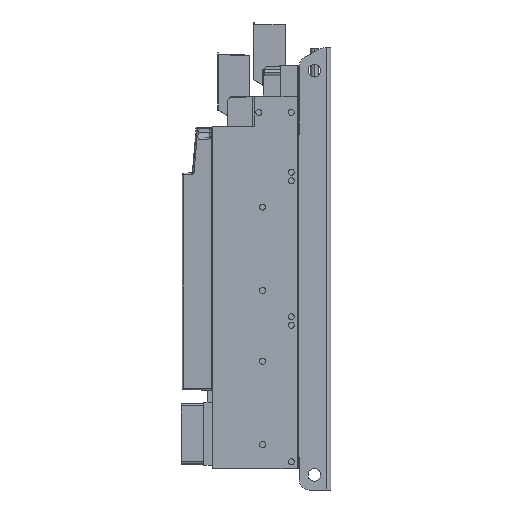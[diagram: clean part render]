
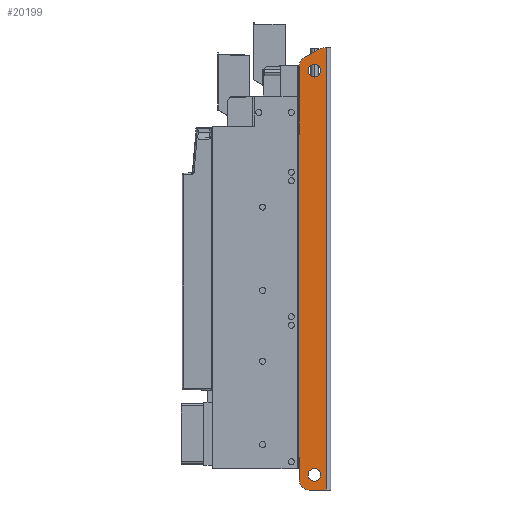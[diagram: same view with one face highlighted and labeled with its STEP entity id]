
A CAD part, left-side view. The second image highlights one B-rep face of the part: STEP entity #20199.
In plain terms, the highlighted planar face has unit normal (-1, 0, 0).
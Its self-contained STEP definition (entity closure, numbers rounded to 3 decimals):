
#42 = DIRECTION ( 'NONE',  ( 0., 0., 1. ) ) ;
#100 = ORIENTED_EDGE ( 'NONE', *, *, #38527, .T. ) ;
#255 = CARTESIAN_POINT ( 'NONE',  ( -163., 25., -63.9 ) ) ;
#1080 = VERTEX_POINT ( 'NONE', #80074 ) ;
#1443 = EDGE_CURVE ( 'NONE', #72381, #10320, #3994, .T. ) ;
#1681 = LINE ( 'NONE', #20015, #86638 ) ;
#3598 = CARTESIAN_POINT ( 'NONE',  ( -163., -29., 811.1 ) ) ;
#3994 = LINE ( 'NONE', #86209, #76068 ) ;
#4217 = DIRECTION ( 'NONE',  ( -1., 0., 0. ) ) ;
#4731 = LINE ( 'NONE', #71812, #18040 ) ;
#5295 = EDGE_CURVE ( 'NONE', #87381, #51055, #1681, .T. ) ;
#5385 = ORIENTED_EDGE ( 'NONE', *, *, #86685, .T. ) ;
#5545 = PLANE ( 'NONE',  #13877 ) ;
#5797 = EDGE_CURVE ( 'NONE', #15594, #27573, #54783, .T. ) ;
#5955 = DIRECTION ( 'NONE',  ( -1., 0., 0. ) ) ;
#6732 = AXIS2_PLACEMENT_3D ( 'NONE', #15384, #57846, #57413 ) ;
#7068 = ORIENTED_EDGE ( 'NONE', *, *, #1443, .F. ) ;
#7504 = DIRECTION ( 'NONE',  ( 0., 0.866, -0.5 ) ) ;
#8108 = VECTOR ( 'NONE', #46095, 1000. ) ;
#8218 = ORIENTED_EDGE ( 'NONE', *, *, #85847, .F. ) ;
#8727 = FACE_OUTER_BOUND ( 'NONE', #45950, .T. ) ;
#9728 = EDGE_CURVE ( 'NONE', #81917, #87381, #62814, .T. ) ;
#10320 = VERTEX_POINT ( 'NONE', #84483 ) ;
#10549 = CIRCLE ( 'NONE', #67694, 12.5 ) ;
#13143 = ORIENTED_EDGE ( 'NONE', *, *, #17476, .T. ) ;
#13877 = AXIS2_PLACEMENT_3D ( 'NONE', #85123, #4217, #45771 ) ;
#14056 = EDGE_CURVE ( 'NONE', #45297, #84623, #16090, .T. ) ;
#14068 = DIRECTION ( 'NONE',  ( 0., -1., 0. ) ) ;
#14296 = LINE ( 'NONE', #61715, #25347 ) ;
#15384 = CARTESIAN_POINT ( 'NONE',  ( -163., 5., -43.9 ) ) ;
#15594 = VERTEX_POINT ( 'NONE', #67960 ) ;
#16090 = CIRCLE ( 'NONE', #76030, 12.5 ) ;
#16102 = DIRECTION ( 'NONE',  ( 0., 0., 1. ) ) ;
#17301 = ORIENTED_EDGE ( 'NONE', *, *, #41413, .F. ) ;
#17476 = EDGE_CURVE ( 'NONE', #1080, #79587, #4731, .T. ) ;
#17632 = DIRECTION ( 'NONE',  ( 0., 0., 1. ) ) ;
#17723 = DIRECTION ( 'NONE',  ( -1., 0., 0. ) ) ;
#18040 = VECTOR ( 'NONE', #24807, 1000. ) ;
#18173 = VERTEX_POINT ( 'NONE', #71232 ) ;
#19189 = VECTOR ( 'NONE', #42, 1000. ) ;
#19206 = EDGE_CURVE ( 'NONE', #79587, #32599, #38928, .T. ) ;
#20015 = CARTESIAN_POINT ( 'NONE',  ( -163., -18., 811.1 ) ) ;
#20199 = ADVANCED_FACE ( 'NONE', ( #8727, #35964, #63249 ), #5545, .T. ) ;
#21244 = CARTESIAN_POINT ( 'NONE',  ( -163., -13.359, 808.421 ) ) ;
#21704 = ORIENTED_EDGE ( 'NONE', *, *, #19206, .T. ) ;
#23678 = CARTESIAN_POINT ( 'NONE',  ( -163., -5., 766.1 ) ) ;
#23701 = DIRECTION ( 'NONE',  ( 0., 0., 1. ) ) ;
#24109 = DIRECTION ( 'NONE',  ( 0., 0., 1. ) ) ;
#24115 = DIRECTION ( 'NONE',  ( -1., 0., 0. ) ) ;
#24333 = CARTESIAN_POINT ( 'NONE',  ( -163., -5., 766.1 ) ) ;
#24807 = DIRECTION ( 'NONE',  ( 0., -1., 0. ) ) ;
#25347 = VECTOR ( 'NONE', #68017, 1000. ) ;
#26467 = DIRECTION ( 'NONE',  ( 0., 0., 1. ) ) ;
#27573 = VERTEX_POINT ( 'NONE', #61537 ) ;
#27884 = CARTESIAN_POINT ( 'NONE',  ( -163., 15., 792.047 ) ) ;
#29619 = CARTESIAN_POINT ( 'NONE',  ( -163., 25., 585. ) ) ;
#30287 = AXIS2_PLACEMENT_3D ( 'NONE', #23678, #24115, #16102 ) ;
#32599 = VERTEX_POINT ( 'NONE', #50874 ) ;
#35964 = FACE_BOUND ( 'NONE', #40981, .T. ) ;
#37754 = DIRECTION ( 'NONE',  ( -1., 0., 0. ) ) ;
#38063 = CIRCLE ( 'NONE', #88050, 12.5 ) ;
#38527 = EDGE_CURVE ( 'NONE', #43723, #10320, #63614, .T. ) ;
#38928 = LINE ( 'NONE', #87206, #8108 ) ;
#39274 = EDGE_CURVE ( 'NONE', #18173, #47039, #10549, .T. ) ;
#39413 = ORIENTED_EDGE ( 'NONE', *, *, #5797, .T. ) ;
#40949 = CARTESIAN_POINT ( 'NONE',  ( -163., 27., 536. ) ) ;
#40981 = EDGE_LOOP ( 'NONE', ( #56482, #8218 ) ) ;
#41413 = EDGE_CURVE ( 'NONE', #1080, #72381, #88344, .T. ) ;
#42293 = CIRCLE ( 'NONE', #73787, 20. ) ;
#42431 = VERTEX_POINT ( 'NONE', #3598 ) ;
#43723 = VERTEX_POINT ( 'NONE', #59454 ) ;
#45139 = CARTESIAN_POINT ( 'NONE',  ( -163., -5., -33.9 ) ) ;
#45297 = VERTEX_POINT ( 'NONE', #80314 ) ;
#45771 = DIRECTION ( 'NONE',  ( 0., 0., 1. ) ) ;
#45950 = EDGE_LOOP ( 'NONE', ( #13143, #21704, #49602, #39413, #84851, #5385, #54838, #67085, #50424, #100, #7068, #17301 ) ) ;
#46095 = DIRECTION ( 'NONE',  ( 0., 0., -1. ) ) ;
#47039 = VERTEX_POINT ( 'NONE', #53830 ) ;
#47128 = CARTESIAN_POINT ( 'NONE',  ( -163., 25., 0. ) ) ;
#49547 = CIRCLE ( 'NONE', #6732, 20. ) ;
#49602 = ORIENTED_EDGE ( 'NONE', *, *, #70148, .T. ) ;
#49765 = EDGE_LOOP ( 'NONE', ( #54390, #84631 ) ) ;
#50424 = ORIENTED_EDGE ( 'NONE', *, *, #85029, .T. ) ;
#50555 = VECTOR ( 'NONE', #81630, 1000. ) ;
#50874 = CARTESIAN_POINT ( 'NONE',  ( -163., 25., -43.9 ) ) ;
#51055 = VERTEX_POINT ( 'NONE', #27884 ) ;
#51409 = AXIS2_PLACEMENT_3D ( 'NONE', #70260, #64427, #23701 ) ;
#53830 = CARTESIAN_POINT ( 'NONE',  ( -163., -5., 753.6 ) ) ;
#54390 = ORIENTED_EDGE ( 'NONE', *, *, #39274, .F. ) ;
#54783 = LINE ( 'NONE', #255, #86714 ) ;
#54838 = ORIENTED_EDGE ( 'NONE', *, *, #9728, .T. ) ;
#56482 = ORIENTED_EDGE ( 'NONE', *, *, #14056, .F. ) ;
#56913 = DIRECTION ( 'NONE',  ( 0., 0., -1. ) ) ;
#57413 = DIRECTION ( 'NONE',  ( 0., 0., 1. ) ) ;
#57846 = DIRECTION ( 'NONE',  ( -1., 0., 0. ) ) ;
#59454 = CARTESIAN_POINT ( 'NONE',  ( -163., 25., 774.727 ) ) ;
#61264 = CARTESIAN_POINT ( 'NONE',  ( -163., -29., -63.9 ) ) ;
#61537 = CARTESIAN_POINT ( 'NONE',  ( -163., -29., -63.9 ) ) ;
#61715 = CARTESIAN_POINT ( 'NONE',  ( -163., 25., 811.1 ) ) ;
#62814 = CIRCLE ( 'NONE', #51409, 20. ) ;
#63249 = FACE_BOUND ( 'NONE', #49765, .T. ) ;
#63614 = LINE ( 'NONE', #29619, #73312 ) ;
#64427 = DIRECTION ( 'NONE',  ( -1., 0., 0. ) ) ;
#64571 = CIRCLE ( 'NONE', #30287, 12.5 ) ;
#65657 = CARTESIAN_POINT ( 'NONE',  ( -163., -23.359, 811.1 ) ) ;
#67085 = ORIENTED_EDGE ( 'NONE', *, *, #5295, .T. ) ;
#67105 = EDGE_CURVE ( 'NONE', #47039, #18173, #64571, .T. ) ;
#67477 = CARTESIAN_POINT ( 'NONE',  ( -163., -5., -46.4 ) ) ;
#67694 = AXIS2_PLACEMENT_3D ( 'NONE', #24333, #37754, #17632 ) ;
#67960 = CARTESIAN_POINT ( 'NONE',  ( -163., 5., -63.9 ) ) ;
#68017 = DIRECTION ( 'NONE',  ( 0., 1., 0. ) ) ;
#69306 = LINE ( 'NONE', #61264, #19189 ) ;
#70148 = EDGE_CURVE ( 'NONE', #32599, #15594, #49547, .T. ) ;
#70260 = CARTESIAN_POINT ( 'NONE',  ( -163., -23.359, 791.1 ) ) ;
#71130 = DIRECTION ( 'NONE',  ( -1., 0., 0. ) ) ;
#71232 = CARTESIAN_POINT ( 'NONE',  ( -163., -5., 778.6 ) ) ;
#71812 = CARTESIAN_POINT ( 'NONE',  ( -163., 27., 0. ) ) ;
#72294 = DIRECTION ( 'NONE',  ( 0., 0., 1. ) ) ;
#72381 = VERTEX_POINT ( 'NONE', #77680 ) ;
#73312 = VECTOR ( 'NONE', #56913, 1000. ) ;
#73787 = AXIS2_PLACEMENT_3D ( 'NONE', #79878, #17723, #72294 ) ;
#76030 = AXIS2_PLACEMENT_3D ( 'NONE', #87306, #5955, #26467 ) ;
#76068 = VECTOR ( 'NONE', #86659, 1000. ) ;
#77680 = CARTESIAN_POINT ( 'NONE',  ( -163., 27., 640.5 ) ) ;
#79587 = VERTEX_POINT ( 'NONE', #47128 ) ;
#79878 = CARTESIAN_POINT ( 'NONE',  ( -163., 5., 774.727 ) ) ;
#80074 = CARTESIAN_POINT ( 'NONE',  ( -163., 27., 0. ) ) ;
#80314 = CARTESIAN_POINT ( 'NONE',  ( -163., -5., -21.4 ) ) ;
#81630 = DIRECTION ( 'NONE',  ( 0., 0., 1. ) ) ;
#81917 = VERTEX_POINT ( 'NONE', #65657 ) ;
#83133 = EDGE_CURVE ( 'NONE', #27573, #42431, #69306, .T. ) ;
#84483 = CARTESIAN_POINT ( 'NONE',  ( -163., 25., 640.5 ) ) ;
#84623 = VERTEX_POINT ( 'NONE', #67477 ) ;
#84631 = ORIENTED_EDGE ( 'NONE', *, *, #67105, .F. ) ;
#84851 = ORIENTED_EDGE ( 'NONE', *, *, #83133, .T. ) ;
#85029 = EDGE_CURVE ( 'NONE', #51055, #43723, #42293, .T. ) ;
#85123 = CARTESIAN_POINT ( 'NONE',  ( -163., 27., 536. ) ) ;
#85847 = EDGE_CURVE ( 'NONE', #84623, #45297, #38063, .T. ) ;
#86209 = CARTESIAN_POINT ( 'NONE',  ( -163., 27., 640.5 ) ) ;
#86638 = VECTOR ( 'NONE', #7504, 1000. ) ;
#86659 = DIRECTION ( 'NONE',  ( 0., -1., 0. ) ) ;
#86685 = EDGE_CURVE ( 'NONE', #42431, #81917, #14296, .T. ) ;
#86714 = VECTOR ( 'NONE', #14068, 1000. ) ;
#87206 = CARTESIAN_POINT ( 'NONE',  ( -163., 25., -63.9 ) ) ;
#87306 = CARTESIAN_POINT ( 'NONE',  ( -163., -5., -33.9 ) ) ;
#87381 = VERTEX_POINT ( 'NONE', #21244 ) ;
#88050 = AXIS2_PLACEMENT_3D ( 'NONE', #45139, #71130, #24109 ) ;
#88344 = LINE ( 'NONE', #40949, #50555 ) ;
